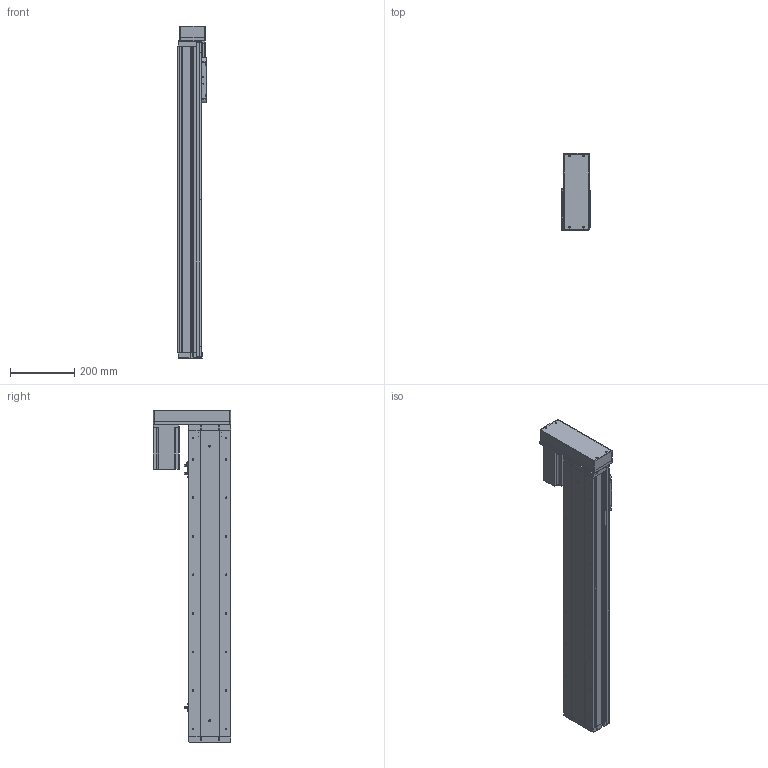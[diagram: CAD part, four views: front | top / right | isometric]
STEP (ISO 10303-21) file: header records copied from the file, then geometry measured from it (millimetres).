
FILE_DESCRIPTION (( 'STEP AP214' ), '1' );
FILE_NAME ('KSD130S-P2010-ML-CR-S750.STEP', '2019-09-24T06:23:57', ( '微软用户' ), ( '微软中国' ), 'SwSTEP 2.0', 'SolidWorks 2014', '' );
FILE_SCHEMA (( 'AUTOMOTIVE_DESIGN' ));
Length unit declared in the file: millimetre
Products named in the file (14): 130宽滚珠螺姆安装板1; 130宽侧板全封闭-750行程; 130宽全封闭马达安装板丝杠; 130宽全封闭端盖丝杠; 130宽底板全封闭丝杠-750行程; KSD130S-P2010-ML-CR-S750; 130宽模组保护罩左右折; 台达ECMA－C20807AS伺服电机; 130宽模组马达安装板连板左右折丝杆; 感应片130宽全封闭; U倰嫖萇EEㄜSX672; 130遵裔啣揤啣1; 130宽盖板全封闭-750行程; 130宽滚珠螺姆安装板1防护罩
Assembly tree (17 placements, depth 2):
  KSD130S-P2010-ML-CR-S750
    130宽底板全封闭丝杠-750行程
    130宽全封闭端盖丝杠
    130宽全封闭马达安装板丝杠
    130宽侧板全封闭-750行程  x2
    130宽滚珠螺姆安装板1
    130宽滚珠螺姆安装板1防护罩
    130宽盖板全封闭-750行程
    130遵裔啣揤啣1  x2
    U倰嫖萇EEㄜSX672  x3
    感应片130宽全封闭
    130宽模组马达安装板连板左右折丝杆
    台达ECMA－C20807AS伺服电机
    130宽模组保护罩左右折
Bounding box: 90 x 240 x 1034.5 mm (x, y, z)
Volume: 3920026.3 mm3; surface area: 1245953.6 mm2
Topology: 18 solids, 18 shells, 1506 faces, 4096 edges, 2571 vertices
Faces by surface type: cylinder 668, plane 611, cone 227
Entity records: 45870 total; most frequent: DIRECTION 6987, CARTESIAN_POINT 6855, ORIENTED_EDGE 6446, EDGE_CURVE 3223, AXIS2_PLACEMENT_3D 2519, VERTEX_POINT 2101, VECTOR 1949, LINE 1949
